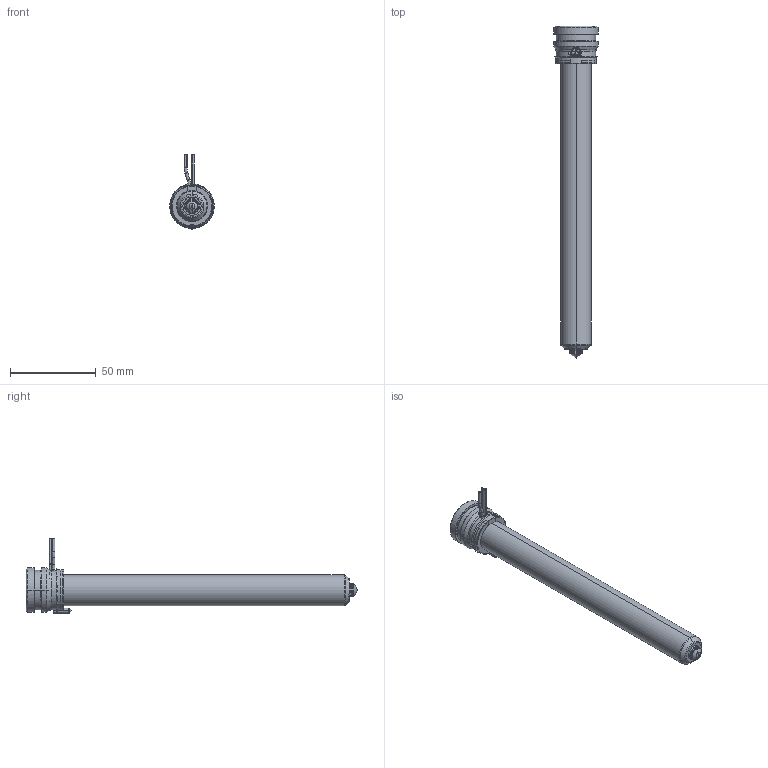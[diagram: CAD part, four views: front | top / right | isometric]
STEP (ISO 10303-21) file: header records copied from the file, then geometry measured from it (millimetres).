
FILE_DESCRIPTION((''),'2;1');
FILE_NAME('MPN-08-24-VSA8-176-A','2026-02-05T12:04:16',('UPTIO'),('Thermoplay S.p.A.'),'CREO PARAMETRIC BY PTC INC, 2023494','CREO PARAMETRIC BY PTC INC, 2023494','');
FILE_SCHEMA(('CONFIG_CONTROL_DESIGN','SHAPE_APPEARANCE_LAYERS_GROUPS'));
Length unit declared in the file: millimetre
Products named in the file (1): MPN-08-24-VSA8-176-A
Bounding box: 26 x 194 x 43.5 mm (x, y, z)
Volume: 36292.7 mm3; surface area: 47581.5 mm2
Topology: 2 solids, 3 shells, 543 faces, 1440 edges, 895 vertices
Faces by surface type: cylinder 182, plane 143, bspline 80, torus 62, cone 60, sphere 10, extrusion 6
Entity records: 29198 total; most frequent: CARTESIAN_POINT 13000, ORIENTED_EDGE 2864, DIRECTION 2580, EDGE_CURVE 1432, AXIS2_PLACEMENT_3D 1007, VERTEX_POINT 895, EDGE_LOOP 571, VECTOR 566
